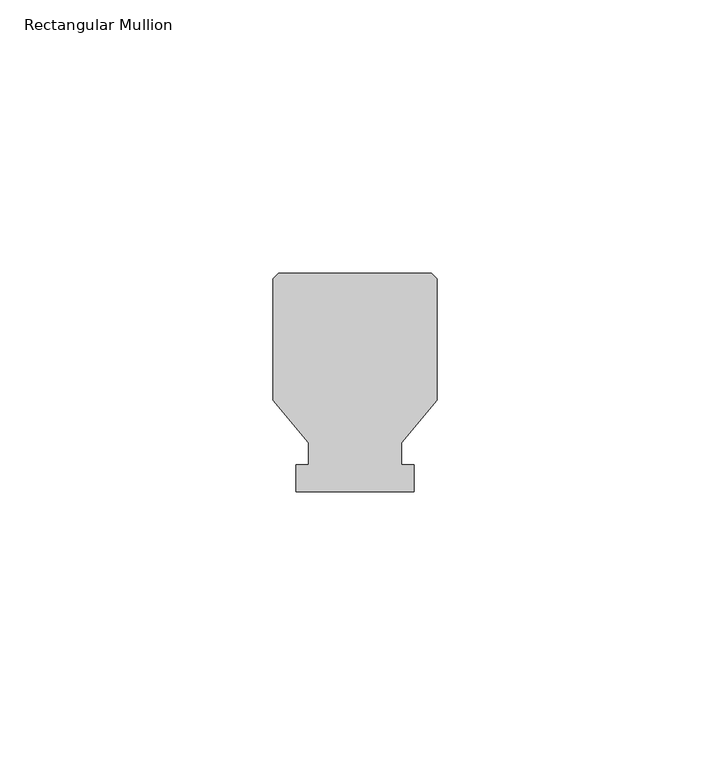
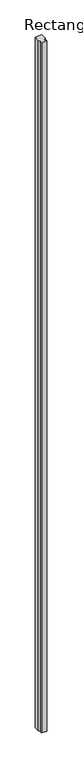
"""IFC4 building model written with IfcOpenShell, lengths in millimetres: member geometry, Rectangular Mullion : Batten_Timber_Modinex_Austratus_Linear_Fin_30x40_AlaskanYellowCedar."""

from ifc_helpers import new_model, si_unit, frame, origin, place, context, project, spatial, polyline, outline, extrude, source, transform, mapped, element, save


def rectangular_mullion_4b77aab5(model_context):
    return source(origin(), model_context, "Body", "SweptSolid", [
        extrude(outline(polyline([(-15.0, 16.8079815), (-15.0, 39.0), (-14.0, 40.0), (14.0, 40.0), (15.0, 39.0), (15.0, 16.8079815), (8.5, 9.0), (8.5, 5.0), (10.812195, 5.0), (10.812195, 0.0), (-10.812195, 0.0), (-10.812195, 5.0), (-8.5, 5.0), (-8.5, 9.0), (-15.0, 16.8079815)])), frame((0.0, 0.0, -3000.0), z_axis=(0.0, 0.0, 1.0), x_axis=(1.0, 0.0, 0.0)), (0.0, 0.0, 1.0), 3000.0),
    ])


if __name__ == "__main__":
    model = new_model("IFC4")
    model_context = context("Model", 3, world=origin())
    ifc_project = project(units=[si_unit("LENGTHUNIT", "METRE", prefix="MILLI")], contexts=[model_context])
    site = spatial("IfcSite", under=ifc_project)
    building = spatial("IfcBuilding", under=site)
    placement = place(None, origin())
    rectangular_mullion_shape = rectangular_mullion_4b77aab5(model_context)
    element("IfcMember", 1, ObjectType="Rectangular Mullion : Batten_Timber_Modinex_Austratus_Linear_Fin_30x40_AlaskanYellowCedar", at=placement, inside=building, context=model_context, shape_type="MappedRepresentation", body=[
        mapped(rectangular_mullion_shape, transform((0.0, 0.0, 0.0), x_axis=(1.0, 0.0, 0.0), y_axis=(0.0, 1.0, 0.0), z_axis=(0.0, 0.0, 1.0))),
    ])
    save(model, "model.ifc")
